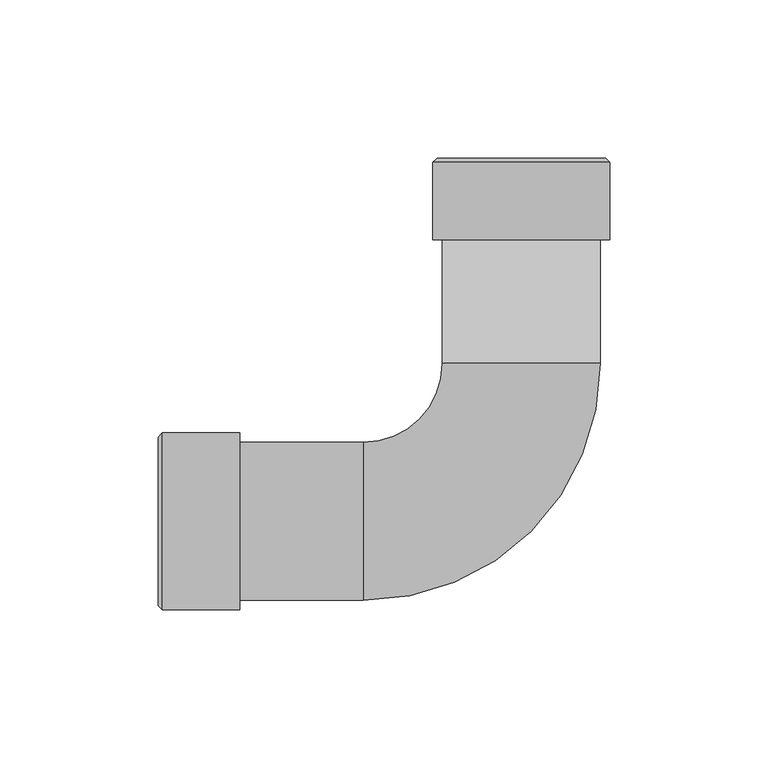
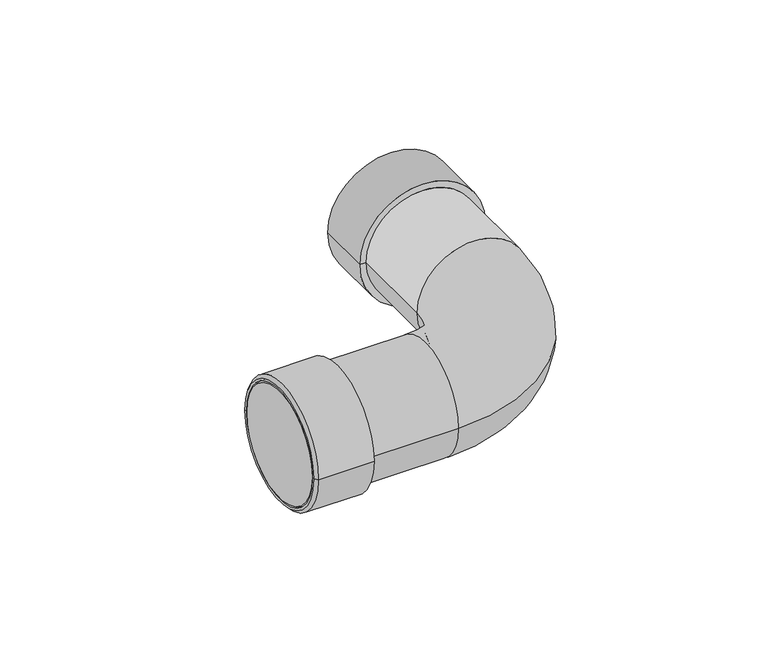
"""IFC4 building model written with IfcOpenShell, lengths in millimetres: cable carrier fitting geometry, ADSK_Поворот : Металл."""

import ifcopenshell
import ifcopenshell.guid

model = None  # the IFC model being written
_history = None  # IfcOwnerHistory: only IFC2X3 demands one
_inside = {}  # id of a spatial element -> (the spatial element, [elements in it])
_under = {}  # id of a project, library or spatial element -> (it, [spatial elements below it])
_declared = {}  # id of a project -> (the project, [libraries it declares])
_typed = {}  # id of a type object -> (the type object, [elements of that type])
_made_of = {}  # id of a material, layer set ... -> (it, [elements and type objects made of it])


def new_model(schema):
    """Start an empty IFC model of exactly this schema.

    Asked for "IFC4X3", IfcOpenShell would pick the latest addendum, in which some entities
    have other attributes; the version numbers below select the first issue.
    IFC2X3 requires an IfcOwnerHistory on every rooted entity: one is made here for all.
    """
    global model, _history
    if schema == "IFC4X3":
        model = ifcopenshell.file(schema_version=(4, 3, 0, 0))
    else:
        model = ifcopenshell.file(schema=schema)
    _inside.clear()
    _under.clear()
    _declared.clear()
    _typed.clear()
    _made_of.clear()
    _history = None
    if model.schema == "IFC2X3":
        org = make("IfcOrganization", Name="unknown")
        user = make(
            "IfcPersonAndOrganization",
            ThePerson=make("IfcPerson", FamilyName="unknown"),
            TheOrganization=org,
        )
        app = make(
            "IfcApplication",
            ApplicationDeveloper=org,
            Version="unknown",
            ApplicationFullName="unknown",
            ApplicationIdentifier="unknown",
        )
        _history = make(
            "IfcOwnerHistory",
            OwningUser=user,
            OwningApplication=app,
            ChangeAction="ADDED",
            CreationDate=0,
        )
    return model


def make(cls, **values):
    """One entity of the class cls with the attributes given. An attribute that is None is left unset."""
    return model.create_entity(
        cls, **{name: value for name, value in values.items() if value is not None}
    )


def rooted(cls, **values):
    """An entity with a GlobalId (a new one), such as an element, a storey or a relation."""
    return make(cls, GlobalId=ifcopenshell.guid.new(), OwnerHistory=_history, **values)


def si_unit(unit_type, name, prefix=None):
    """IfcSIUnit, for example si_unit("LENGTHUNIT", "METRE", prefix="MILLI")."""
    return make("IfcSIUnit", UnitType=unit_type, Prefix=prefix, Name=name)


def assignment(units):
    """IfcUnitAssignment: the units of a project."""
    return None if units is None else make("IfcUnitAssignment", Units=units)


def point(xyz):
    """IfcCartesianPoint."""
    return None if xyz is None else make("IfcCartesianPoint", Coordinates=xyz)


def direction(xyz):
    """IfcDirection."""
    return None if xyz is None else make("IfcDirection", DirectionRatios=xyz)


def frame(location, z_axis=None, x_axis=None):
    """IfcAxis2Placement3D, a coordinate frame: its origin and axes. An axis left out is left unset."""
    return make(
        "IfcAxis2Placement3D",
        Location=point(location),
        Axis=direction(z_axis),
        RefDirection=direction(x_axis),
    )


def origin():
    """The frame at (0, 0, 0) with its axes left unset."""
    return frame((0.0, 0.0, 0.0))


def place(relative_to, where):
    """IfcLocalPlacement: puts the frame where relative to a parent placement (None: the world)."""
    return make(
        "IfcLocalPlacement", PlacementRelTo=relative_to, RelativePlacement=where
    )


def context(
    kind, dimensions, precision=None, world=None, true_north=None, identifier=None
):
    """IfcGeometricRepresentationContext, for example the 3D "Model" context."""
    return make(
        "IfcGeometricRepresentationContext",
        ContextIdentifier=identifier,
        ContextType=kind,
        CoordinateSpaceDimension=dimensions,
        Precision=precision,
        WorldCoordinateSystem=world,
        TrueNorth=true_north,
    )


def project(units=None, contexts=None):
    """IfcProject with its units and contexts."""
    return rooted(
        "IfcProject",
        Name="project",
        RepresentationContexts=contexts,
        UnitsInContext=assignment(units),
    )


def spatial(cls, under=None, at=None, **own):
    """A site, building, storey or space (cls), placed at a placement, below another one or the project."""
    s = rooted(cls, ObjectPlacement=at, **own)
    if under is not None:
        _under.setdefault(under.id(), (under, []))[1].append(s)
    return s


def polyline(points):
    """IfcPolyline through the points."""
    return make("IfcPolyline", Points=[point(p) for p in points])


def circle_curve(where, radius):
    """IfcCircle in the frame where."""
    return make("IfcCircle", Position=where, Radius=radius)


def ellipse_curve(where, semi_axis1, semi_axis2):
    """IfcEllipse in the frame where."""
    return make(
        "IfcEllipse", Position=where, SemiAxis1=semi_axis1, SemiAxis2=semi_axis2
    )


def trimmed(basis, trim1, trim2, sense, master):
    """IfcTrimmedCurve: the piece of a basis curve between two trims."""
    return make(
        "IfcTrimmedCurve",
        BasisCurve=basis,
        Trim1=trim1,
        Trim2=trim2,
        SenseAgreement=sense,
        MasterRepresentation=master,
    )


def shape(context_of_items, identifier, shape_type, items):
    """IfcShapeRepresentation: the items that make up one representation, for example the "Body"."""
    return make(
        "IfcShapeRepresentation",
        ContextOfItems=context_of_items,
        RepresentationIdentifier=identifier,
        RepresentationType=shape_type,
        Items=items,
    )


def source(mapping_origin, context_of_items, identifier, shape_type, items):
    """IfcRepresentationMap: a shape defined once, which mapped items show again and again."""
    return make(
        "IfcRepresentationMap",
        MappingOrigin=mapping_origin,
        MappedRepresentation=shape(context_of_items, identifier, shape_type, items),
    )


def transform(
    local_origin,
    x_axis=None,
    y_axis=None,
    z_axis=None,
    scale=None,
    scale2=None,
    scale3=None,
    uniform=True,
):
    """IfcCartesianTransformationOperator3D, or its non-uniform kind. x_axis, y_axis, z_axis: its Axis1, 2, 3."""
    if uniform:
        return make(
            "IfcCartesianTransformationOperator3D",
            Axis1=direction(x_axis),
            Axis2=direction(y_axis),
            LocalOrigin=point(local_origin),
            Scale=scale,
            Axis3=direction(z_axis),
        )
    return make(
        "IfcCartesianTransformationOperator3DnonUniform",
        Axis1=direction(x_axis),
        Axis2=direction(y_axis),
        LocalOrigin=point(local_origin),
        Scale=scale,
        Axis3=direction(z_axis),
        Scale2=scale2,
        Scale3=scale3,
    )


def mapped(mapping_source, mapping_target):
    """IfcMappedItem: shows the shape of a source again, moved by a transform."""
    return make(
        "IfcMappedItem", MappingSource=mapping_source, MappingTarget=mapping_target
    )


def made_of(thing, what):
    """Note that an element or type object is made of a material, layer set ...; save() writes the relation."""
    if what is not None:
        _made_of.setdefault(what.id(), (what, []))[1].append(thing)
    return thing


def element(
    cls,
    number,
    at=None,
    inside=None,
    cuts=None,
    type_object=None,
    material=None,
    context=None,
    identifier="Body",
    shape_type=None,
    held_by="IfcProductDefinitionShape",
    body=None,
    shapes=None,
    **own,
):
    """One element of the class cls, such as IfcWall. Its Tag is "e" and its number.

    at: its placement. inside: the storey or other place that contains it. cuts: it is an
    opening in that element (IfcRelVoidsElement). A single representation is given by context,
    identifier, shape_type and body (its items); several are given by shapes. held_by: the class
    of the entity that holds the representations. save() writes the other relations.
    """
    e = rooted(cls, Tag="e%d" % number, ObjectPlacement=at, **own)
    if body is not None:
        shapes = [shape(context, identifier, shape_type, body)]
    if shapes is not None:
        e.Representation = make(held_by, Representations=shapes)
    if inside is not None:
        _inside.setdefault(inside.id(), (inside, []))[1].append(e)
    if cuts is not None:
        rooted(
            "IfcRelVoidsElement", RelatingBuildingElement=cuts, RelatedOpeningElement=e
        )
    if type_object is not None:
        _typed.setdefault(type_object.id(), (type_object, []))[1].append(e)
    return made_of(e, material)


def aggregate(whole, parts):
    """IfcRelAggregates: a whole, such as a stair, and the parts it consists of."""
    return rooted("IfcRelAggregates", RelatingObject=whole, RelatedObjects=parts)


def save(model, path):
    """Write the relations noted so far, then the file.

    IfcRelAggregates (storeys below a building ...), IfcRelContainedInSpatialStructure (elements
    in a storey), IfcRelDefinesByType, IfcRelAssociatesMaterial and IfcRelDeclares: one each for
    every whole, place, type object, material and project.
    """
    for whole, parts in _under.values():
        aggregate(whole, parts)
    for where, things in _inside.values():
        rooted(
            "IfcRelContainedInSpatialStructure",
            RelatedElements=things,
            RelatingStructure=where,
        )
    for kind, things in _typed.values():
        rooted("IfcRelDefinesByType", RelatedObjects=things, RelatingType=kind)
    for what, things in _made_of.values():
        rooted("IfcRelAssociatesMaterial", RelatedObjects=things, RelatingMaterial=what)
    for by, libraries in _declared.values():
        rooted("IfcRelDeclares", RelatingContext=by, RelatedDefinitions=libraries)
    model.write(path)


def plane_surface(at):
    """IfcPlane: the flat surface through the origin of the frame at, square to its z axis."""
    return make("IfcPlane", Position=at)


def cylinder_surface(at, radius):
    """IfcCylindricalSurface: all points at the distance radius from the z axis of the frame at."""
    return make("IfcCylindricalSurface", Position=at, Radius=radius)


def revolved_surface(curve, axis_point, axis_direction):
    """IfcSurfaceOfRevolution: the curve turned about the line through axis_point along axis_direction."""
    return make(
        "IfcSurfaceOfRevolution",
        SweptCurve=make("IfcArbitraryOpenProfileDef", ProfileType="CURVE", Curve=curve),
        AxisPosition=make("IfcAxis1Placement", Location=point(axis_point), Axis=direction(axis_direction)),
    )


def advanced_brep(points, edges, surfaces, faces):
    """IfcAdvancedBrep: a solid bounded by faces that lie on surfaces and meet in shared edges.

    An edge is (start, end): straight between two places in points (the first is 0);
    or (start, end, curve); or (start, end, curve, False) where it runs against its curve.
    A face is (place in surfaces, loops), or (place, loops, False) where it looks against
    its surface's normal. A loop lists edges by number (the first is 1), with a minus sign
    where the edge is run from its end to its start. The first loop is the outer one.
    """
    corners = [point(p) for p in points]
    vertices = [make("IfcVertexPoint", VertexGeometry=c) for c in corners]
    made = []
    for start, end, *more in edges:
        made.append(
            make(
                "IfcEdgeCurve",
                EdgeStart=vertices[start],
                EdgeEnd=vertices[end],
                EdgeGeometry=more[0] if more else make("IfcPolyline", Points=[corners[start], corners[end]]),
                SameSense=more[1] if len(more) > 1 else True,
            )
        )
    hull = []
    for where, loops, *sense in faces:
        bounds = []
        for j, loop in enumerate(loops):
            ring = [make("IfcOrientedEdge", EdgeElement=made[abs(k) - 1], Orientation=k > 0) for k in loop]
            bounds.append(
                make(
                    "IfcFaceOuterBound" if j == 0 else "IfcFaceBound",
                    Bound=make("IfcEdgeLoop", EdgeList=ring),
                    Orientation=True,
                )
            )
        hull.append(make("IfcAdvancedFace", Bounds=bounds, FaceSurface=surfaces[where], SameSense=sense[0] if sense else True))
    return make("IfcAdvancedBrep", Outer=make("IfcClosedShell", CfsFaces=hull))


def cable_carrier_fitting_bd18bc15(model_context):
    return source(origin(), model_context, "Body", "AdvancedBrep", [
        advanced_brep(
        [(-115.0, 25.0, 0.0), (-115.0, -25.0, 0.0), (-50.0, -25.0, 0.0), (-50.0, 25.0, 0.0), (-89.1831816, 25.0, 0.0), (-89.1831816, -25.0, 0.0), (25.0, 50.0, 0.0), (-25.0, 50.0, 0.0), (25.0, 115.0, 0.0), (-25.0, 115.0, 0.0), (25.0, 89.1831816, 0.0), (-25.0, 89.1831816, 0.0), (-113.1402564, 25.6768913, 0.0), (-113.1402564, -25.6768913, 0.0), (-89.1831816, -28.0, 0.0), (-89.1831816, 28.0, 0.0), (-113.6698709, -28.0, 0.0), (-113.6698709, 28.0, 0.0), (-115.0, -26.6698709, 0.0), (-115.0, 26.6698709, 0.0), (-115.0, -25.6768913, 0.0), (-115.0, 25.6768913, 0.0), (-28.0, 113.6698709, 0.0), (28.0, 113.6698709, 0.0), (28.0, 89.1831816, 0.0), (-28.0, 89.1831816, 0.0), (-26.6698709, 115.0, 0.0), (26.6698709, 115.0, 0.0), (-25.6768913, 115.0, 0.0), (25.6768913, 115.0, 0.0), (-25.6768913, 113.1402564, 0.0), (25.6768913, 113.1402564, 0.0)],
        [
            (0, 1, circle_curve(frame((-115.0, 0.0, 0.0), z_axis=(-1.0, 0.0, 0.0), x_axis=(0.0, 1.0, 0.0)), 25.0)),
            (1, 0, circle_curve(frame((-115.0, 0.0, 0.0), z_axis=(-1.0, 0.0, 0.0), x_axis=(0.0, 1.0, 0.0)), 25.0)),
            (2, 3, circle_curve(frame((-50.0, 0.0, 0.0), z_axis=(-1.0, 0.0, 0.0), x_axis=(0.0, 1.0, 0.0)), 25.0)),
            (3, 4),
            (4, 5, circle_curve(frame((-89.1831816, 0.0, 0.0), z_axis=(1.0, 0.0, 0.0), x_axis=(0.0, 1.0, 0.0)), 25.0)),
            (5, 2),
            (3, 2, circle_curve(frame((-50.0, 0.0, 0.0), z_axis=(-1.0, 0.0, 0.0), x_axis=(0.0, 1.0, 0.0)), 25.0)),
            (5, 4, circle_curve(frame((-89.1831816, 0.0, 0.0), z_axis=(1.0, 0.0, 0.0), x_axis=(0.0, 1.0, 0.0)), 25.0)),
            (2, 6, circle_curve(frame((-50.0, 50.0, 0.0), z_axis=(0.0, 0.0, 1.0), x_axis=(0.0, -1.0, 0.0)), 75.0)),
            (6, 7, circle_curve(frame((0.0, 50.0, 0.0), z_axis=(0.0, -1.0, 0.0), x_axis=(-1.0, 0.0, 0.0)), 25.0)),
            (7, 3, circle_curve(frame((-50.0, 50.0, 0.0), z_axis=(0.0, 0.0, -1.0), x_axis=(0.0, -1.0, 0.0)), 25.0)),
            (7, 6, circle_curve(frame((0.0, 50.0, 0.0), z_axis=(0.0, -1.0, 0.0), x_axis=(-1.0, 0.0, 0.0)), 25.0)),
            (8, 9, circle_curve(frame((0.0, 115.0, 0.0), z_axis=(0.0, 1.0, 0.0), x_axis=(1.0, 0.0, 0.0)), 25.0)),
            (9, 8, circle_curve(frame((0.0, 115.0, 0.0), z_axis=(0.0, 1.0, 0.0), x_axis=(1.0, 0.0, 0.0)), 25.0)),
            (6, 10),
            (10, 11, circle_curve(frame((0.0, 89.1831816, 0.0), z_axis=(0.0, -1.0, 0.0), x_axis=(-1.0, 0.0, 0.0)), 25.0)),
            (11, 7),
            (11, 10, circle_curve(frame((0.0, 89.1831816, 0.0), z_axis=(0.0, -1.0, 0.0), x_axis=(-1.0, 0.0, 0.0)), 25.0)),
            (0, 12),
            (12, 13, circle_curve(frame((-113.1402564, 0.0, 0.0), z_axis=(-1.0, 0.0, 0.0), x_axis=(0.0, 1.0, 0.0)), 25.6768913)),
            (13, 1),
            (13, 12, circle_curve(frame((-113.1402564, 0.0, 0.0), z_axis=(-1.0, 0.0, 0.0), x_axis=(0.0, 1.0, 0.0)), 25.6768913)),
            (14, 15, circle_curve(frame((-89.1831816, 0.0, 0.0), z_axis=(1.0, 0.0, 0.0), x_axis=(0.0, 1.0, 0.0)), 28.0)),
            (15, 4),
            (5, 14),
            (15, 14, circle_curve(frame((-89.1831816, 0.0, 0.0), z_axis=(1.0, 0.0, 0.0), x_axis=(0.0, 1.0, 0.0)), 28.0)),
            (14, 16),
            (16, 17, circle_curve(frame((-113.6698709, 0.0, 0.0), z_axis=(1.0, 0.0, 0.0), x_axis=(0.0, 1.0, 0.0)), 28.0)),
            (17, 15),
            (17, 16, circle_curve(frame((-113.6698709, 0.0, 0.0), z_axis=(1.0, 0.0, 0.0), x_axis=(0.0, 1.0, 0.0)), 28.0)),
            (16, 18),
            (18, 19, circle_curve(frame((-115.0, 0.0, 0.0), z_axis=(1.0, 0.0, 0.0), x_axis=(0.0, 1.0, 0.0)), 26.6698709)),
            (19, 17),
            (19, 18, circle_curve(frame((-115.0, 0.0, 0.0), z_axis=(1.0, 0.0, 0.0), x_axis=(0.0, 1.0, 0.0)), 26.6698709)),
            (18, 20),
            (20, 21, circle_curve(frame((-115.0, 0.0, 0.0), z_axis=(1.0, 0.0, 0.0), x_axis=(0.0, 1.0, 0.0)), 25.6768913)),
            (21, 19),
            (21, 20, circle_curve(frame((-115.0, 0.0, 0.0), z_axis=(1.0, 0.0, 0.0), x_axis=(0.0, 1.0, 0.0)), 25.6768913)),
            (12, 21),
            (20, 13),
            (22, 23, circle_curve(frame((0.0, 113.6698709, 0.0), z_axis=(0.0, -1.0, 0.0), x_axis=(1.0, 0.0, 0.0)), 28.0)),
            (23, 24),
            (24, 25, circle_curve(frame((0.0, 89.1831816, 0.0), z_axis=(0.0, 1.0, 0.0), x_axis=(1.0, 0.0, 0.0)), 28.0)),
            (25, 22),
            (23, 22, circle_curve(frame((0.0, 113.6698709, 0.0), z_axis=(0.0, -1.0, 0.0), x_axis=(1.0, 0.0, 0.0)), 28.0)),
            (25, 24, circle_curve(frame((0.0, 89.1831816, 0.0), z_axis=(0.0, 1.0, 0.0), x_axis=(1.0, 0.0, 0.0)), 28.0)),
            (22, 26),
            (26, 27, circle_curve(frame((0.0, 115.0, 0.0), z_axis=(0.0, -1.0, 0.0), x_axis=(1.0, 0.0, 0.0)), 26.6698709)),
            (27, 23),
            (27, 26, circle_curve(frame((0.0, 115.0, 0.0), z_axis=(0.0, -1.0, 0.0), x_axis=(1.0, 0.0, 0.0)), 26.6698709)),
            (26, 28),
            (28, 29, circle_curve(frame((0.0, 115.0, 0.0), z_axis=(0.0, -1.0, 0.0), x_axis=(1.0, 0.0, 0.0)), 25.6768913)),
            (29, 27),
            (29, 28, circle_curve(frame((0.0, 115.0, 0.0), z_axis=(0.0, -1.0, 0.0), x_axis=(1.0, 0.0, 0.0)), 25.6768913)),
            (28, 30),
            (30, 31, circle_curve(frame((0.0, 113.1402564, 0.0), z_axis=(0.0, -1.0, 0.0), x_axis=(1.0, 0.0, 0.0)), 25.6768913)),
            (31, 29),
            (31, 30, circle_curve(frame((0.0, 113.1402564, 0.0), z_axis=(0.0, -1.0, 0.0), x_axis=(1.0, 0.0, 0.0)), 25.6768913)),
            (30, 9),
            (8, 31),
            (24, 10),
            (11, 25),
        ],
        [
            plane_surface(frame((-115.0, 0.0, 0.0), z_axis=(-1.0, 0.0, 0.0), x_axis=(0.0, 0.0, 1.0))),
            cylinder_surface(frame((-115.0, 0.0, 0.0), z_axis=(-1.0, 0.0, 0.0), x_axis=(0.0, 1.0, 0.0)), 25.0),
            revolved_surface(trimmed(ellipse_curve(frame((-50.0, 0.0, 0.0), z_axis=(-1.0, 0.0, 0.0), x_axis=(0.0, 1.0, 0.0)), 25.0, 25.0), [point((-50.0, -25.0, 0.0))], [point((-50.0, 25.0, 0.0))], True, "CARTESIAN"), (-50.0, 50.0, 0.0), (0.0, 0.0, 1.0)),
            revolved_surface(trimmed(ellipse_curve(frame((-50.0, 0.0, 0.0), z_axis=(-1.0, 0.0, 0.0), x_axis=(0.0, 1.0, 0.0)), 25.0, 25.0), [point((-50.0, 25.0, 0.0))], [point((-50.0, -25.0, 0.0))], True, "CARTESIAN"), (-50.0, 50.0, 0.0), (0.0, 0.0, 1.0)),
            plane_surface(frame((0.0, 115.0, 0.0), z_axis=(0.0, 1.0, 0.0), x_axis=(0.0, 0.0, 1.0))),
            cylinder_surface(frame((0.0, 50.0, 0.0), z_axis=(0.0, -1.0, 0.0), x_axis=(-1.0, 0.0, 0.0)), 25.0),
            revolved_surface(polyline([(-113.1402564, 25.6768913, 0.0), (-115.0, 25.0, 0.0)]), (-115.0, 0.0, 0.0), (-1.0, 0.0, 0.0)),
            plane_surface(frame((-89.1831816, 0.0, 0.0), z_axis=(1.0, 0.0, 0.0), x_axis=(0.0, 1.0, 0.0))),
            cylinder_surface(frame((-115.0, 0.0, 0.0), z_axis=(-1.0, 0.0, 0.0), x_axis=(0.0, 1.0, 0.0)), 28.0),
            revolved_surface(polyline([(-113.6698709, 28.0, 0.0), (-115.0, 26.6698709, 0.0)]), (-115.0, 0.0, 0.0), (-1.0, 0.0, 0.0)),
            plane_surface(frame((-115.0, 0.0, 0.0), z_axis=(-1.0, 0.0, 0.0), x_axis=(0.0, 1.0, 0.0))),
            revolved_surface(polyline([(-115.0, 25.6768913, 0.0), (-113.1402564, 25.6768913, 0.0)]), (-115.0, 0.0, 0.0), (-1.0, 0.0, 0.0)),
            cylinder_surface(frame((0.0, 134.0, 0.0), z_axis=(0.0, 1.0, 0.0), x_axis=(1.0, 0.0, 0.0)), 28.0),
            revolved_surface(polyline([(28.0, 113.6698709, 0.0), (26.6698709, 115.0, 0.0)]), (0.0, 134.0, 0.0), (0.0, 1.0, 0.0)),
            plane_surface(frame((0.0, 115.0, 0.0), z_axis=(0.0, 1.0, 0.0), x_axis=(1.0, 0.0, 0.0))),
            revolved_surface(polyline([(25.6768913, 115.0, 0.0), (25.6768913, 113.1402564, 0.0)]), (0.0, 134.0, 0.0), (0.0, 1.0, 0.0)),
            revolved_surface(polyline([(25.6768913, 113.1402564, 0.0), (25.0, 115.0, 0.0)]), (0.0, 134.0, 0.0), (0.0, 1.0, 0.0)),
            plane_surface(frame((0.0, 89.1831816, 0.0), z_axis=(0.0, -1.0, 0.0), x_axis=(1.0, 0.0, 0.0))),
        ],
        [
            (0, [[1, 2]]),
            (1, [[3, 4, 5, 6]]),
            (1, [[7, -6, 8, -4]]),
            (2, [[-3, 9, 10, 11]]),
            (3, [[-7, -11, 12, -9]]),
            (4, [[13, 14]]),
            (5, [[-10, 15, 16, 17]]),
            (5, [[-12, -17, 18, -15]]),
            (6, [[19, 20, 21, -1]]),
            (6, [[-19, -2, -21, 22]]),
            (7, [[23, 24, -8, 25]]),
            (7, [[-24, 26, -25, -5]]),
            (8, [[-23, 27, 28, 29]]),
            (8, [[-26, -29, 30, -27]]),
            (9, [[-28, 31, 32, 33]]),
            (9, [[-30, -33, 34, -31]]),
            (10, [[-32, 35, 36, 37]]),
            (10, [[-34, -37, 38, -35]]),
            (11, [[-20, 39, -36, 40]]),
            (11, [[-22, -40, -38, -39]]),
            (12, [[41, 42, 43, 44]]),
            (12, [[-42, 45, -44, 46]]),
            (13, [[-41, 47, 48, 49]]),
            (13, [[-45, -49, 50, -47]]),
            (14, [[-48, 51, 52, 53]]),
            (14, [[-50, -53, 54, -51]]),
            (15, [[-52, 55, 56, 57]]),
            (15, [[-54, -57, 58, -55]]),
            (16, [[-56, 59, -13, 60]]),
            (16, [[-58, -60, -14, -59]]),
            (17, [[-43, 61, -18, 62]]),
            (17, [[-46, -62, -16, -61]]),
        ],
    ),
    ])


if __name__ == "__main__":
    model = new_model("IFC4")
    model_context = context("Model", 3, world=origin())
    ifc_project = project(units=[si_unit("LENGTHUNIT", "METRE", prefix="MILLI")], contexts=[model_context])
    site = spatial("IfcSite", under=ifc_project)
    building = spatial("IfcBuilding", under=site)
    placement = place(None, origin())
    cable_carrier_fitting_shape = cable_carrier_fitting_bd18bc15(model_context)
    element("IfcCableCarrierFitting", 1, ObjectType="ADSK_Поворот : Металл", at=placement, inside=building, context=model_context, shape_type="MappedRepresentation", body=[
        mapped(cable_carrier_fitting_shape, transform((0.0, 0.0, 0.0), x_axis=(1.0, 0.0, 0.0), y_axis=(0.0, 1.0, 0.0), z_axis=(0.0, 0.0, 1.0))),
    ])
    save(model, "model.ifc")
